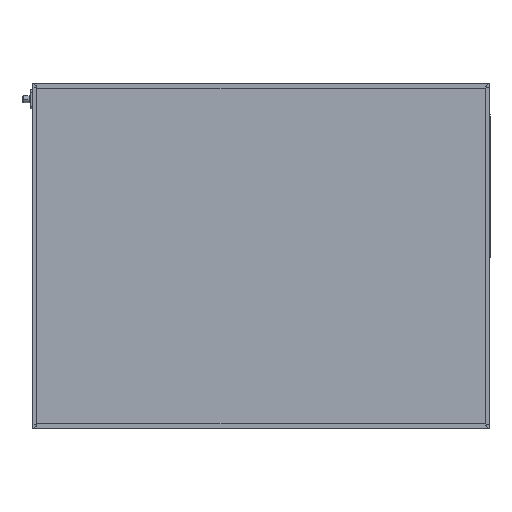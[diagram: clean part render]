
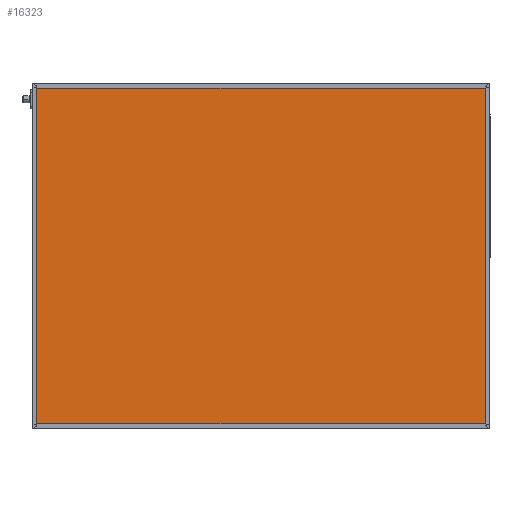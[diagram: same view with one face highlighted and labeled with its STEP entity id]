
A CAD part, top view. The second image highlights one B-rep face of the part: STEP entity #16323.
In plain terms, the highlighted planar face has unit normal (0, 0, 1).
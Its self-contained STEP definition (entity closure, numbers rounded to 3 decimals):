
#189 = ORIENTED_EDGE ( 'NONE', *, *, #3601, .T. ) ;
#309 = CARTESIAN_POINT ( 'NONE',  ( 0., 0., 41.85 ) ) ;
#1746 = VECTOR ( 'NONE', #2662, 1000. ) ;
#2059 = VERTEX_POINT ( 'NONE', #11004 ) ;
#2662 = DIRECTION ( 'NONE',  ( -1., 0., 0. ) ) ;
#2789 = CARTESIAN_POINT ( 'NONE',  ( 4., 596., 41.85 ) ) ;
#2846 = EDGE_LOOP ( 'NONE', ( #10620, #11979, #2929, #189 ) ) ;
#2860 = VECTOR ( 'NONE', #3347, 1000. ) ;
#2929 = ORIENTED_EDGE ( 'NONE', *, *, #4834, .T. ) ;
#2934 = DIRECTION ( 'NONE',  ( 0., 0., -1. ) ) ;
#3236 = LINE ( 'NONE', #8562, #13278 ) ;
#3347 = DIRECTION ( 'NONE',  ( 0., -1., 0. ) ) ;
#3470 = FACE_OUTER_BOUND ( 'NONE', #2846, .T. ) ;
#3601 = EDGE_CURVE ( 'NONE', #2059, #10933, #10360, .T. ) ;
#3835 = EDGE_CURVE ( 'NONE', #10607, #10705, #14605, .T. ) ;
#4675 = AXIS2_PLACEMENT_3D ( 'NONE', #309, #2934, #13216 ) ;
#4834 = EDGE_CURVE ( 'NONE', #10705, #2059, #13976, .T. ) ;
#8562 = CARTESIAN_POINT ( 'NONE',  ( 796., 0., 41.85 ) ) ;
#9060 = CARTESIAN_POINT ( 'NONE',  ( 0., 4., 41.85 ) ) ;
#10360 = LINE ( 'NONE', #9060, #13984 ) ;
#10607 = VERTEX_POINT ( 'NONE', #17093 ) ;
#10620 = ORIENTED_EDGE ( 'NONE', *, *, #13296, .T. ) ;
#10705 = VERTEX_POINT ( 'NONE', #2789 ) ;
#10933 = VERTEX_POINT ( 'NONE', #16881 ) ;
#11004 = CARTESIAN_POINT ( 'NONE',  ( 4., 4., 41.85 ) ) ;
#11979 = ORIENTED_EDGE ( 'NONE', *, *, #3835, .T. ) ;
#12660 = CARTESIAN_POINT ( 'NONE',  ( 4., 0., 41.85 ) ) ;
#13216 = DIRECTION ( 'NONE',  ( -1., 0., 0. ) ) ;
#13278 = VECTOR ( 'NONE', #13873, 1000. ) ;
#13296 = EDGE_CURVE ( 'NONE', #10933, #10607, #3236, .T. ) ;
#13873 = DIRECTION ( 'NONE',  ( 0., 1., 0. ) ) ;
#13976 = LINE ( 'NONE', #12660, #2860 ) ;
#13984 = VECTOR ( 'NONE', #14368, 1000. ) ;
#14368 = DIRECTION ( 'NONE',  ( 1., 0., 0. ) ) ;
#14605 = LINE ( 'NONE', #15816, #1746 ) ;
#15816 = CARTESIAN_POINT ( 'NONE',  ( 0., 596., 41.85 ) ) ;
#16323 = ADVANCED_FACE ( 'NONE', ( #3470 ), #17234, .F. ) ;
#16881 = CARTESIAN_POINT ( 'NONE',  ( 796., 4., 41.85 ) ) ;
#17093 = CARTESIAN_POINT ( 'NONE',  ( 796., 596., 41.85 ) ) ;
#17234 = PLANE ( 'NONE',  #4675 ) ;
